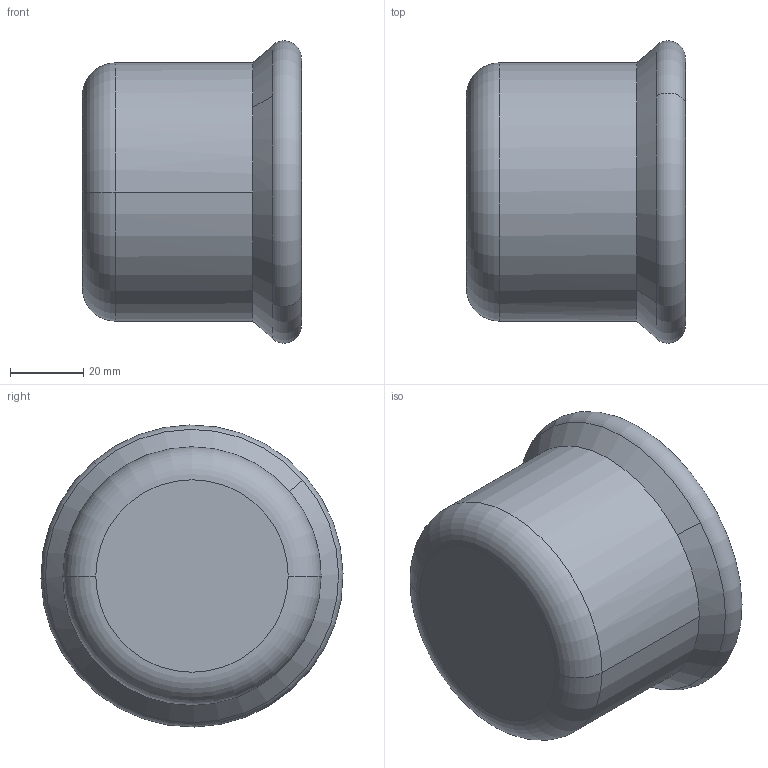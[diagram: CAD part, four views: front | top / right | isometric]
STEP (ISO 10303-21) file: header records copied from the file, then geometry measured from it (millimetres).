
FILE_DESCRIPTION(('CoCreate Modeling STEP Export'),'2;1');
FILE_NAME('C1429 67.stp','2014-10-22T17:08:55',(''),(''),'CoCreate Modeling STEP processor for AP214 (Solid Model)','CoCreate Modeling 17.00A 17-Jun-2010 (C) Parametric Technology GmbH','');
FILE_SCHEMA(('AUTOMOTIVE_DESIGN { 1 0 10303 214 1 1 1 1 }'));
Length unit declared in the file: millimetre
Products named in the file (2): Eindkap_67mm
Assembly tree (1 placements, depth 2):
  Eindkap_67mm
    Eindkap_67mm
Bounding box: 60 x 82.76 x 82.76 mm (x, y, z)
Volume: 43183.4 mm3; surface area: 33298.3 mm2
Topology: 1 solids, 1 shells, 26 faces, 65 edges, 43 vertices
Faces by surface type: torus 8, cone 8, cylinder 6, plane 4
Entity records: 657 total; most frequent: ORIENTED_EDGE 130, CARTESIAN_POINT 96, DIRECTION 92, EDGE_CURVE 65, VERTEX_POINT 43, AXIS2_PLACEMENT_3D 39, EDGE_LOOP 28, FACE_OUTER_BOUND 26
